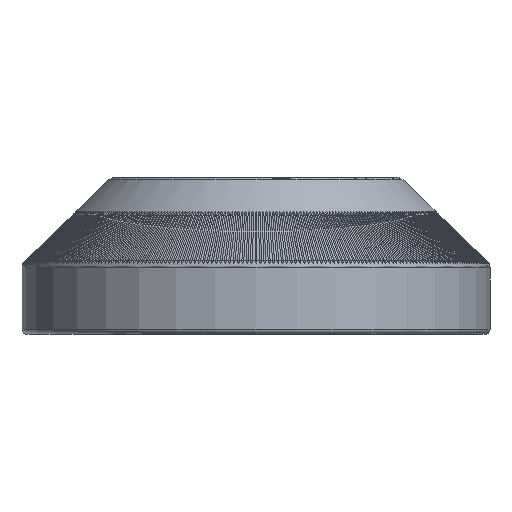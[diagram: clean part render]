
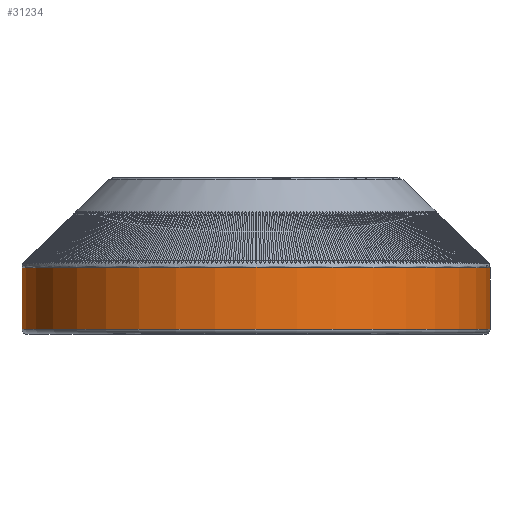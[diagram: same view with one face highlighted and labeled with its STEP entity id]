
A CAD part, top view. The second image highlights one B-rep face of the part: STEP entity #31234.
In plain terms, the highlighted cylindrical face has radius 5 mm (diameter 10 mm), a full revolution.
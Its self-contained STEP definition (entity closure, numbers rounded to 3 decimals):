
#3803=FACE_OUTER_BOUND('',#5543,.T.);
#5543=EDGE_LOOP('',(#29149,#29150,#29151,#29152));
#5721=CIRCLE('',#31435,5.);
#7219=CIRCLE('',#33300,5.);
#10067=LINE('',#129271,#10175);
#10175=VECTOR('',#37517,5.);
#10701=VERTEX_POINT('',#42896);
#13626=VERTEX_POINT('',#129267);
#14160=EDGE_CURVE('',#10701,#10701,#5721,.T.);
#18801=EDGE_CURVE('',#13626,#13626,#7219,.T.);
#18803=EDGE_CURVE('',#10701,#13626,#10067,.T.);
#29149=ORIENTED_EDGE('',*,*,#14160,.F.);
#29150=ORIENTED_EDGE('',*,*,#18803,.T.);
#29151=ORIENTED_EDGE('',*,*,#18801,.F.);
#29152=ORIENTED_EDGE('',*,*,#18803,.F.);
#29502=CYLINDRICAL_SURFACE('',#33302,5.);
#31234=ADVANCED_FACE('',(#3803),#29502,.T.);
#31435=AXIS2_PLACEMENT_3D('',#42898,#33681,#33682);
#33300=AXIS2_PLACEMENT_3D('',#129268,#37511,#37512);
#33302=AXIS2_PLACEMENT_3D('',#129270,#37515,#37516);
#33681=DIRECTION('center_axis',(0.,1.,0.));
#33682=DIRECTION('ref_axis',(0.,0.,
-1.));
#37511=DIRECTION('center_axis',(0.,-1.,0.));
#37512=DIRECTION('ref_axis',(0.,0.,
-1.));
#37515=DIRECTION('center_axis',(0.,1.,0.));
#37516=DIRECTION('ref_axis',(0.,0.,1.));
#37517=DIRECTION('',(0.,-1.,0.));
#42896=CARTESIAN_POINT('',(0.,1.415,-5.));
#42898=CARTESIAN_POINT('Origin',(0.,1.415,0.));
#129267=CARTESIAN_POINT('',(0.,0.1,-5.));
#129268=CARTESIAN_POINT('Origin',(0.,0.1,0.));
#129270=CARTESIAN_POINT('Origin',(0.,0.75,0.));
#129271=CARTESIAN_POINT('',(0.,0.75,-5.));
